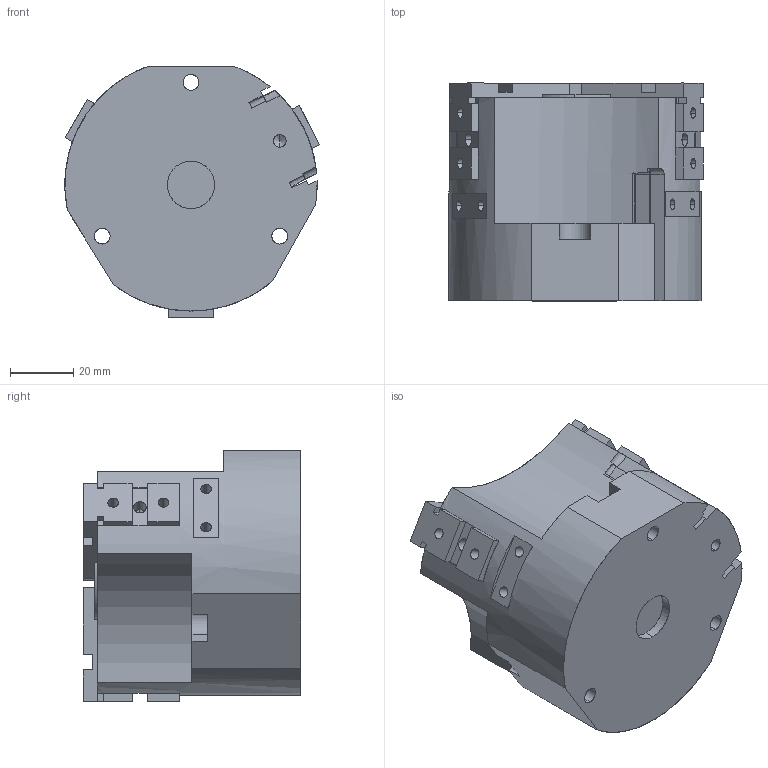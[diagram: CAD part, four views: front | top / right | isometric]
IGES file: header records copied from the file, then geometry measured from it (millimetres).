
Start section: SolidWorks IGES file using analytic representation for surfaces
Global section: file name: C:\Documents and Settings\SGA\Bureau\ROMAIN\OPE 80-3\OPE 80-3 fermé.IGS; native system: SolidWorks 2010; preprocessor: SolidWorks 2010; author: SGA; date: 110928.093444; units: millimetre
Bounding box: 80.65 x 69 x 79.52 mm (x, y, z)
Surface area: 50720.8 mm2 (no closed solid volume)
Topology: 0 solids, 0 shells, 593 faces, 6734 edges, 6688 vertices
Faces by surface type: bspline 473, revolution 120
